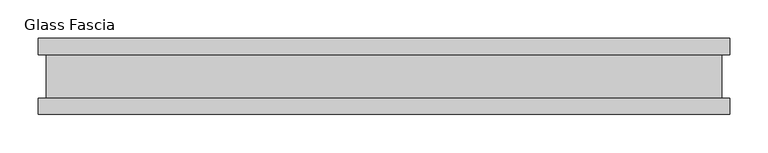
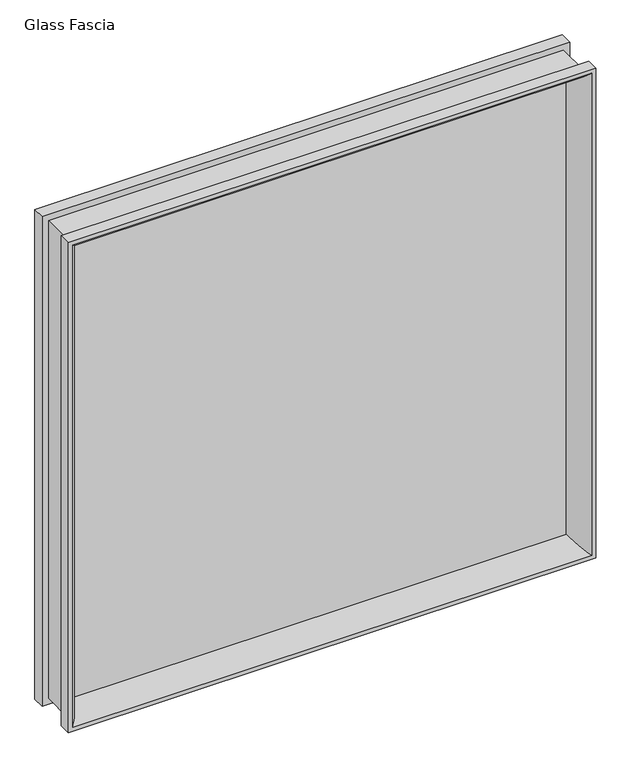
"""IFC4 building model written with IfcOpenShell, lengths in millimetres: proxy geometry, Panel-Fascia-Teknion-Altos-Glass : Glass Fascia."""

from ifc_helpers import new_model, si_unit, frame, origin, place, context, project, spatial, polyline, ellipse_curve, outline, extrude, source, transform, mapped, element, save
from ifc_brep_helpers import plane_surface, cylinder_surface, advanced_brep


def glass_fascia_2d5cffca(model_context):
    return source(origin(), model_context, "Body", "SolidModel", [
        advanced_brep(
        [(429.1093308, 5.0827449, 870.3973332), (447.0641812, 50.0558594, 888.3521836), (447.0641812, 50.0558594, 10.1728164), (429.1093308, 5.0827449, 28.1276668), (439.5995219, -5.0827449, 880.8875243), (439.5995219, 5.0827449, 880.8875243), (439.5995219, 5.0827449, 17.6374757), (439.5995219, -5.0827449, 17.6374757), (447.0641812, -50.0558594, 888.3521836), (429.1093308, -5.0827449, 870.3973332), (429.1093308, -5.0827449, 28.1276668), (447.0641812, -50.0558594, 10.1728164), (454.0619976, -28.8801202, 895.35), (454.0619976, -50.0558594, 895.35), (454.0619976, -50.0558594, 3.175), (454.0619976, -28.8801202, 3.175), (443.2369977, 28.2698798, 884.5250001), (443.2369977, -28.8801202, 884.5250001), (443.2369977, -28.8801202, 13.9999999), (443.2369977, 28.2698798, 13.9999999), (454.0619976, 50.0558594, 895.35), (454.0619976, 28.2698798, 895.35), (454.0619976, 28.2698798, 3.175), (454.0619976, 50.0558594, 3.175), (-447.0641812, 50.0558594, 10.1728164), (-429.1093308, 5.0827449, 28.1276668), (-439.5995219, 5.0827449, 17.6374757), (-439.5995219, -5.0827449, 17.6374757), (-429.1093308, -5.0827449, 28.1276668), (-447.0641812, -50.0558594, 10.1728164), (-454.0619976, -50.0558594, 3.175), (-454.0619976, -28.8801202, 3.175), (-443.2369977, -28.8801202, 13.9999999), (-443.2369977, 28.2698798, 13.9999999), (-454.0619976, 28.2698798, 3.175), (-454.0619976, 50.0558594, 3.175), (-447.0641812, 50.0558594, 888.3521836), (-429.1093308, 5.0827449, 870.3973332), (-439.5995219, 5.0827449, 880.8875243), (-439.5995219, -5.0827449, 880.8875243), (-429.1093308, -5.0827449, 870.3973332), (-447.0641812, -50.0558594, 888.3521836), (-454.0619976, -50.0558594, 895.35), (-454.0619976, -28.8801202, 895.35), (-443.2369977, -28.8801202, 884.5250001), (-443.2369977, 28.2698798, 884.5250001), (-454.0619976, 28.2698798, 895.35), (-454.0619976, 50.0558594, 895.35)],
        [
            (0, 1, ellipse_curve(frame((481.1955682, 10.3587469, 922.4835705), z_axis=(0.7071067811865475, 0.0, -0.7071067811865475), x_axis=(0.7071067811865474, 0.0, 0.7071067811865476)), 74.0379946, 52.352768)),
            (1, 2),
            (2, 3, ellipse_curve(frame((481.1955682, 10.3587469, -23.9585705), z_axis=(0.7071067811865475, 0.0, 0.7071067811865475), x_axis=(-0.7071067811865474, 0.0, 0.7071067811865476)), 74.0379946, 52.352768)),
            (3, 0),
            (4, 5),
            (5, 6),
            (6, 7),
            (7, 4),
            (8, 9, ellipse_curve(frame((481.1955682, -10.3587469, 922.4835705), z_axis=(0.7071067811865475, 0.0, -0.7071067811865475), x_axis=(0.7071067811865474, 0.0, 0.7071067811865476)), 74.0379946, 52.352768)),
            (9, 10),
            (10, 11, ellipse_curve(frame((481.1955682, -10.3587469, -23.9585705), z_axis=(0.7071067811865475, 0.0, 0.7071067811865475), x_axis=(-0.7071067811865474, 0.0, 0.7071067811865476)), 74.0379946, 52.352768)),
            (11, 8),
            (12, 13),
            (13, 14),
            (14, 15),
            (15, 12),
            (16, 17),
            (17, 18),
            (18, 19),
            (19, 16),
            (20, 21),
            (21, 22),
            (22, 23),
            (23, 20),
            (2, 24),
            (24, 25, ellipse_curve(frame((-481.1955682, 10.3587469, -23.9585705), z_axis=(0.7071067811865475, 0.0, -0.7071067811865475), x_axis=(0.7071067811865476, 0.0, 0.7071067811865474)), 74.0379946, 52.352768)),
            (25, 3),
            (6, 26),
            (26, 27),
            (27, 7),
            (10, 28),
            (28, 29, ellipse_curve(frame((-481.1955682, -10.3587469, -23.9585705), z_axis=(0.7071067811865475, 0.0, -0.7071067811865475), x_axis=(0.7071067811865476, 0.0, 0.7071067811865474)), 74.0379946, 52.352768)),
            (29, 11),
            (14, 30),
            (30, 31),
            (31, 15),
            (18, 32),
            (32, 33),
            (33, 19),
            (22, 34),
            (34, 35),
            (35, 23),
            (24, 36),
            (36, 37, ellipse_curve(frame((-481.1955682, 10.3587469, 922.4835705), z_axis=(-0.7071067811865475, 0.0, -0.7071067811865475), x_axis=(0.7071067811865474, 0.0, -0.7071067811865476)), 74.0379946, 52.352768)),
            (37, 25),
            (26, 38),
            (38, 39),
            (39, 27),
            (28, 40),
            (40, 41, ellipse_curve(frame((-481.1955682, -10.3587469, 922.4835705), z_axis=(-0.7071067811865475, 0.0, -0.7071067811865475), x_axis=(0.7071067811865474, 0.0, -0.7071067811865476)), 74.0379946, 52.352768)),
            (41, 29),
            (30, 42),
            (42, 43),
            (43, 31),
            (32, 44),
            (44, 45),
            (45, 33),
            (34, 46),
            (46, 47),
            (47, 35),
            (47, 20),
            (1, 36),
            (0, 37),
            (5, 38),
            (4, 39),
            (9, 40),
            (8, 41),
            (13, 42),
            (12, 43),
            (17, 44),
            (16, 45),
            (21, 46),
        ],
        [
            cylinder_surface(frame((481.1955682, 10.3587469, 895.35), z_axis=(0.0, 0.0, 1.0), x_axis=(1.0, 0.0, 0.0)), 52.352768),
            plane_surface(frame((439.5995219, 5.0827449, 880.8875243), z_axis=(-1.0, 0.0, 0.0), x_axis=(0.0, 0.0, -1.0))),
            cylinder_surface(frame((481.1955682, -10.3587469, 895.35), z_axis=(0.0, 0.0, 1.0), x_axis=(1.0, 0.0, 0.0)), 52.352768),
            plane_surface(frame((454.0619976, -50.0558594, 895.35), z_axis=(1.0, 0.0, 0.0), x_axis=(0.0, 0.0, -1.0))),
            plane_surface(frame((443.2369977, -28.8801202, 884.5250001), z_axis=(1.0, 0.0, 0.0), x_axis=(0.0, 0.0, -1.0))),
            plane_surface(frame((454.0619976, 28.2698798, 895.35), z_axis=(1.0, 0.0, 0.0), x_axis=(0.0, 0.0, -1.0))),
            cylinder_surface(frame((454.0619976, 10.3587469, -23.9585705), z_axis=(1.0, 0.0, 0.0), x_axis=(0.0, 0.0, -1.0)), 52.352768),
            plane_surface(frame((439.5995219, 5.0827449, 17.6374757), z_axis=(0.0, 0.0, 1.0), x_axis=(-1.0, 0.0, 0.0))),
            cylinder_surface(frame((454.0619976, -10.3587469, -23.9585705), z_axis=(1.0, 0.0, 0.0), x_axis=(0.0, 0.0, -1.0)), 52.352768),
            plane_surface(frame((454.0619976, -50.0558594, 3.175), z_axis=(0.0, 0.0, -1.0), x_axis=(-1.0, 0.0, 0.0))),
            plane_surface(frame((443.2369977, -28.8801202, 13.9999999), z_axis=(0.0, 0.0, -1.0), x_axis=(-1.0, 0.0, 0.0))),
            plane_surface(frame((454.0619976, 28.2698798, 3.175), z_axis=(0.0, 0.0, -1.0), x_axis=(-1.0, 0.0, 0.0))),
            cylinder_surface(frame((-481.1955682, 10.3587469, 3.175), z_axis=(0.0, 0.0, -1.0), x_axis=(-1.0, 0.0, 0.0)), 52.352768),
            plane_surface(frame((-439.5995219, 5.0827449, 17.6374757), z_axis=(1.0, 0.0, 0.0), x_axis=(0.0, 0.0, 1.0))),
            cylinder_surface(frame((-481.1955682, -10.3587469, 3.175), z_axis=(0.0, 0.0, -1.0), x_axis=(-1.0, 0.0, 0.0)), 52.352768),
            plane_surface(frame((-454.0619976, -50.0558594, 3.175), z_axis=(-1.0, 0.0, 0.0), x_axis=(0.0, 0.0, 1.0))),
            plane_surface(frame((-443.2369977, -28.8801202, 13.9999999), z_axis=(-1.0, 0.0, 0.0), x_axis=(0.0, 0.0, 1.0))),
            plane_surface(frame((-454.0619976, 28.2698798, 3.175), z_axis=(-1.0, 0.0, 0.0), x_axis=(0.0, 0.0, 1.0))),
            plane_surface(frame((-454.0619976, 50.0558594, 895.35), z_axis=(0.0, 1.0, 0.0), x_axis=(1.0, 0.0, 0.0))),
            cylinder_surface(frame((-454.0619976, 10.3587469, 922.4835705), z_axis=(-1.0, 0.0, 0.0), x_axis=(0.0, 0.0, 1.0)), 52.352768),
            plane_surface(frame((-429.1093308, 5.0827449, 870.3973332), z_axis=(0.0, -1.0, 0.0), x_axis=(1.0, 0.0, 0.0))),
            plane_surface(frame((-439.5995219, 5.0827449, 880.8875243), z_axis=(0.0, 0.0, -1.0), x_axis=(1.0, 0.0, 0.0))),
            plane_surface(frame((-439.5995219, -5.0827449, 880.8875243), z_axis=(0.0, 1.0, 0.0), x_axis=(1.0, 0.0, 0.0))),
            cylinder_surface(frame((-454.0619976, -10.3587469, 922.4835705), z_axis=(-1.0, 0.0, 0.0), x_axis=(0.0, 0.0, 1.0)), 52.352768),
            plane_surface(frame((-447.0641812, -50.0558594, 888.3521836), z_axis=(0.0, -1.0, 0.0), x_axis=(1.0, 0.0, 0.0))),
            plane_surface(frame((-454.0619976, -50.0558594, 895.35), z_axis=(0.0, 0.0, 1.0), x_axis=(1.0, 0.0, 0.0))),
            plane_surface(frame((-454.0619976, -28.8801202, 895.35), z_axis=(0.0, 1.0, 0.0), x_axis=(1.0, 0.0, 0.0))),
            plane_surface(frame((-443.2369977, -28.8801202, 884.5250001), z_axis=(0.0, 0.0, 1.0), x_axis=(1.0, 0.0, 0.0))),
            plane_surface(frame((-443.2369977, 28.2698798, 884.5250001), z_axis=(0.0, -1.0, 0.0), x_axis=(1.0, 0.0, 0.0))),
            plane_surface(frame((-454.0619976, 28.2698798, 895.35), z_axis=(0.0, 0.0, 1.0), x_axis=(1.0, 0.0, 0.0))),
        ],
        [
            (0, [[1, 2, 3, 4]]),
            (1, [[5, 6, 7, 8]]),
            (2, [[9, 10, 11, 12]]),
            (3, [[13, 14, 15, 16]]),
            (4, [[17, 18, 19, 20]]),
            (5, [[21, 22, 23, 24]]),
            (6, [[-3, 25, 26, 27]]),
            (7, [[-7, 28, 29, 30]]),
            (8, [[-11, 31, 32, 33]]),
            (9, [[-15, 34, 35, 36]]),
            (10, [[-19, 37, 38, 39]]),
            (11, [[-23, 40, 41, 42]]),
            (12, [[-26, 43, 44, 45]]),
            (13, [[-29, 46, 47, 48]]),
            (14, [[-32, 49, 50, 51]]),
            (15, [[-35, 52, 53, 54]]),
            (16, [[-38, 55, 56, 57]]),
            (17, [[-41, 58, 59, 60]]),
            (18, [[-42, -60, 61, -24], [62, -43, -25, -2]]),
            (19, [[-44, -62, -1, 63]]),
            (20, [[64, -46, -28, -6], [-27, -45, -63, -4]]),
            (21, [[-47, -64, -5, 65]]),
            (22, [[-30, -48, -65, -8], [66, -49, -31, -10]]),
            (23, [[-50, -66, -9, 67]]),
            (24, [[68, -52, -34, -14], [-33, -51, -67, -12]]),
            (25, [[-53, -68, -13, 69]]),
            (26, [[-36, -54, -69, -16], [70, -55, -37, -18]]),
            (27, [[-56, -70, -17, 71]]),
            (28, [[72, -58, -40, -22], [-39, -57, -71, -20]]),
            (29, [[-59, -72, -21, -61]]),
        ],
    ),
        extrude(outline(polyline([(439.5995219, 2.9765625), (439.5995219, -2.9765625), (-439.5995219, -2.9765625), (-439.5995219, 2.9765625), (439.5995219, 2.9765625)])), frame((0.0, 0.0, 17.6374757), z_axis=(0.0, 0.0, 1.0), x_axis=(1.0, 0.0, 0.0)), (0.0, 0.0, 1.0), 863.2500485),
    ])


if __name__ == "__main__":
    model = new_model("IFC4")
    model_context = context("Model", 3, world=origin())
    ifc_project = project(units=[si_unit("LENGTHUNIT", "METRE", prefix="MILLI")], contexts=[model_context])
    site = spatial("IfcSite", under=ifc_project)
    building = spatial("IfcBuilding", under=site)
    placement = place(None, origin())
    glass_fascia_shape = glass_fascia_2d5cffca(model_context)
    element("IfcBuildingElementProxy", 1, Name="Panel-Fascia-Teknion-Altos-Glass : Glass Fascia", ObjectType="Panel-Fascia-Teknion-Altos-Glass : Glass Fascia", at=placement, inside=building, context=model_context, shape_type="MappedRepresentation", body=[
        mapped(glass_fascia_shape, transform((0.0, 0.0, 0.0), x_axis=(1.0, 0.0, 0.0), y_axis=(0.0, 1.0, 0.0), z_axis=(0.0, 0.0, 1.0))),
    ])
    save(model, "model.ifc")
